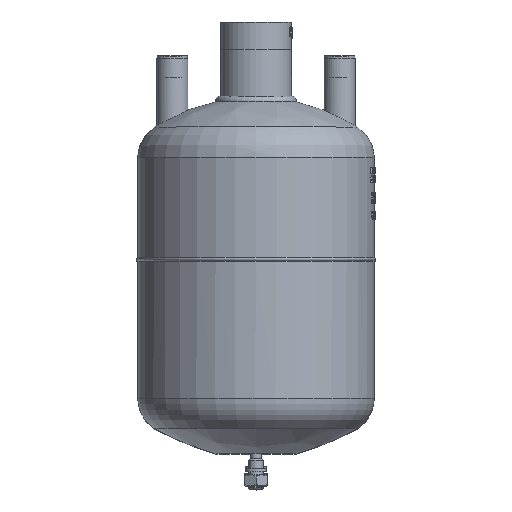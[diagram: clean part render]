
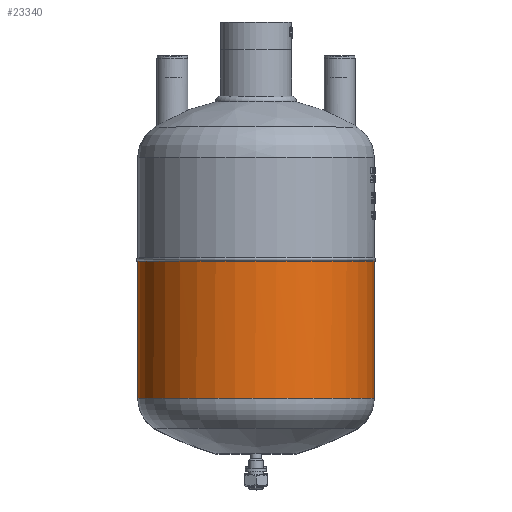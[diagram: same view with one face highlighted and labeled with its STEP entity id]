
A CAD part, top view. The second image highlights one B-rep face of the part: STEP entity #23340.
In plain terms, the highlighted cylindrical face has radius 99 mm (diameter 198 mm), a full revolution.
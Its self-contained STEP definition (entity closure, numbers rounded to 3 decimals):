
#1298=B_SPLINE_CURVE_WITH_KNOTS('',3,(#49028,#49029,#49030,#49031,#49032,
#49033,#49034,#49035,#49036,#49037,#49038,#49039,#49040,#49041,#49042,#49043,
#49044,#49045,#49046,#49047,#49048,#49049,#49050,#49051,#49052,#49053,#49054,
#49055,#49056,#49057,#49058,#49059,#49060,#49061,#49062),.UNSPECIFIED.,
 .F.,.F.,(4,2,2,2,2,2,2,2,2,2,2,2,3,2,2,2,4),(1.592,1.696,
2.035,2.375,2.714,3.053,3.392,
3.731,4.071,4.41,4.749,5.088,
5.428,5.767,6.106,6.445,6.549),
 .UNSPECIFIED.);
#1469=FACE_BOUND('',#4799,.T.);
#1637=CYLINDRICAL_SURFACE('',#25137,99.);
#2095=CIRCLE('',#25138,99.);
#2096=CIRCLE('',#25139,99.);
#3358=FACE_OUTER_BOUND('',#4798,.T.);
#4798=EDGE_LOOP('',(#20954,#20955));
#4799=EDGE_LOOP('',(#20956));
#10856=VERTEX_POINT('',#49025);
#10857=VERTEX_POINT('',#49026);
#10858=VERTEX_POINT('',#49063);
#14258=EDGE_CURVE('',#10856,#10857,#2095,.T.);
#14259=EDGE_CURVE('',#10857,#10856,#1298,.T.);
#14260=EDGE_CURVE('',#10858,#10858,#2096,.T.);
#20954=ORIENTED_EDGE('',*,*,#14258,.F.);
#20955=ORIENTED_EDGE('',*,*,#14259,.F.);
#20956=ORIENTED_EDGE('',*,*,#14260,.T.);
#23340=ADVANCED_FACE('',(#3358,#1469),#1637,.T.);
#25137=AXIS2_PLACEMENT_3D('',#49024,#30201,#30202);
#25138=AXIS2_PLACEMENT_3D('',#49027,#30203,#30204);
#25139=AXIS2_PLACEMENT_3D('',#49064,#30205,#30206);
#30201=DIRECTION('center_axis',(0.,-1.,0.));
#30202=DIRECTION('ref_axis',(-1.,0.,0.));
#30203=DIRECTION('center_axis',(0.,-1.,0.));
#30204=DIRECTION('ref_axis',(1.,0.,0.));
#30205=DIRECTION('center_axis',(0.,-1.,0.));
#30206=DIRECTION('ref_axis',(-1.,0.,0.));
#49024=CARTESIAN_POINT('Origin',(0.,-157.912,
256.456));
#49025=CARTESIAN_POINT('',(2.403,-215.249,157.486));
#49026=CARTESIAN_POINT('',(-2.403,-215.249,157.486));
#49027=CARTESIAN_POINT('Origin',(0.,-215.249,256.456));
#49028=CARTESIAN_POINT('Ctrl Pts',(-2.403,-215.249,
157.486));
#49029=CARTESIAN_POINT('Ctrl Pts',(-2.756,-215.151,
157.494));
#49030=CARTESIAN_POINT('Ctrl Pts',(-3.105,-215.031,
157.505));
#49031=CARTESIAN_POINT('Ctrl Pts',(-4.554,-214.431,157.555));
#49032=CARTESIAN_POINT('Ctrl Pts',(-5.565,-213.738,
157.61));
#49033=CARTESIAN_POINT('Ctrl Pts',(-7.163,-212.141,
157.713));
#49034=CARTESIAN_POINT('Ctrl Pts',(-7.855,-211.129,
157.767));
#49035=CARTESIAN_POINT('Ctrl Pts',(-8.774,-208.912,
157.845));
#49036=CARTESIAN_POINT('Ctrl Pts',(-9.,-207.706,
157.866));
#49037=CARTESIAN_POINT('Ctrl Pts',(-9.,-205.445,
157.866));
#49038=CARTESIAN_POINT('Ctrl Pts',(-8.774,-204.239,
157.845));
#49039=CARTESIAN_POINT('Ctrl Pts',(-7.855,-202.022,157.767));
#49040=CARTESIAN_POINT('Ctrl Pts',(-7.163,-201.01,157.713));
#49041=CARTESIAN_POINT('Ctrl Pts',(-5.565,-199.413,157.61));
#49042=CARTESIAN_POINT('Ctrl Pts',(-4.554,-198.72,157.555));
#49043=CARTESIAN_POINT('Ctrl Pts',(-2.336,-197.801,157.478));
#49044=CARTESIAN_POINT('Ctrl Pts',(-1.131,-197.575,
157.456));
#49045=CARTESIAN_POINT('Ctrl Pts',(1.131,-197.575,157.456));
#49046=CARTESIAN_POINT('Ctrl Pts',(2.336,-197.801,157.478));
#49047=CARTESIAN_POINT('Ctrl Pts',(4.554,-198.72,157.555));
#49048=CARTESIAN_POINT('Ctrl Pts',(5.565,-199.413,157.61));
#49049=CARTESIAN_POINT('Ctrl Pts',(7.163,-201.01,157.713));
#49050=CARTESIAN_POINT('Ctrl Pts',(7.855,-202.022,157.767));
#49051=CARTESIAN_POINT('Ctrl Pts',(8.774,-204.239,157.845));
#49052=CARTESIAN_POINT('Ctrl Pts',(9.,-205.445,157.866));
#49053=CARTESIAN_POINT('Ctrl Pts',(9.,-206.575,157.866));
#49054=CARTESIAN_POINT('Ctrl Pts',(9.,-207.706,157.866));
#49055=CARTESIAN_POINT('Ctrl Pts',(8.774,-208.912,157.845));
#49056=CARTESIAN_POINT('Ctrl Pts',(7.855,-211.129,157.767));
#49057=CARTESIAN_POINT('Ctrl Pts',(7.163,-212.141,157.713));
#49058=CARTESIAN_POINT('Ctrl Pts',(5.565,-213.738,157.61));
#49059=CARTESIAN_POINT('Ctrl Pts',(4.554,-214.431,157.555));
#49060=CARTESIAN_POINT('Ctrl Pts',(3.105,-215.031,157.505));
#49061=CARTESIAN_POINT('Ctrl Pts',(2.756,-215.151,157.494));
#49062=CARTESIAN_POINT('Ctrl Pts',(2.403,-215.249,157.486));
#49063=CARTESIAN_POINT('',(-99.,-100.575,256.456));
#49064=CARTESIAN_POINT('Origin',(0.,-100.575,
256.456));
